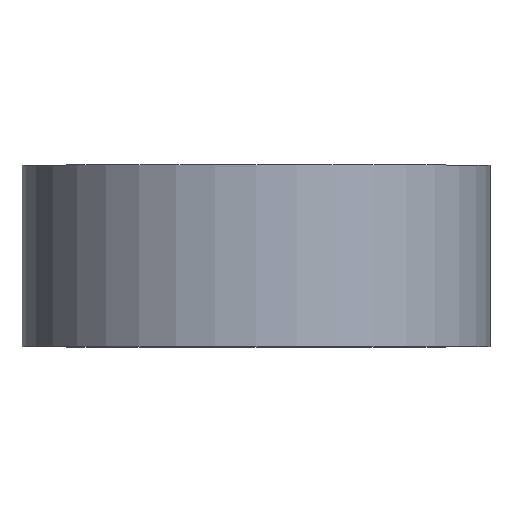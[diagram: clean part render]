
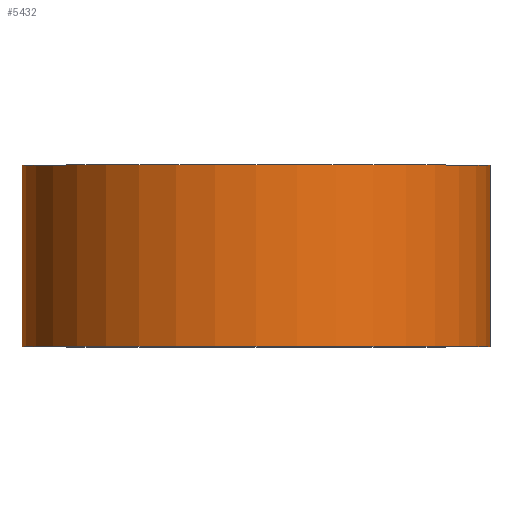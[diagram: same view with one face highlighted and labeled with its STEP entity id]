
A CAD part, top view. The second image highlights one B-rep face of the part: STEP entity #5432.
In plain terms, the highlighted cylindrical face has radius 82.5 mm (diameter 165 mm), a full revolution.
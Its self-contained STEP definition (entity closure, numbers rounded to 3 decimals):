
#615=FACE_OUTER_BOUND('',#957,.T.);
#957=EDGE_LOOP('',(#4364,#4365,#4366,#4367));
#1340=LINE('',#15311,#1719);
#1719=VECTOR('',#7200,82.5);
#2002=CIRCLE('',#5946,82.5);
#2013=CIRCLE('',#5967,82.5);
#2421=VERTEX_POINT('',#15273);
#2430=VERTEX_POINT('',#15310);
#3079=EDGE_CURVE('',#2421,#2421,#2002,.T.);
#3097=EDGE_CURVE('',#2421,#2430,#1340,.T.);
#3098=EDGE_CURVE('',#2430,#2430,#2013,.T.);
#4364=ORIENTED_EDGE('',*,*,#3079,.F.);
#4365=ORIENTED_EDGE('',*,*,#3097,.T.);
#4366=ORIENTED_EDGE('',*,*,#3098,.T.);
#4367=ORIENTED_EDGE('',*,*,#3097,.F.);
#4895=CYLINDRICAL_SURFACE('',#5966,82.5);
#5432=ADVANCED_FACE('',(#615),#4895,.T.);
#5946=AXIS2_PLACEMENT_3D('',#15274,#7151,#7152);
#5966=AXIS2_PLACEMENT_3D('',#15309,#7198,#7199);
#5967=AXIS2_PLACEMENT_3D('',#15312,#7201,#7202);
#7151=DIRECTION('center_axis',(0.,1.,0.));
#7152=DIRECTION('ref_axis',(-1.,0.,0.));
#7198=DIRECTION('center_axis',(0.,1.,0.));
#7199=DIRECTION('ref_axis',(-1.,0.,0.));
#7200=DIRECTION('',(0.,-1.,0.));
#7201=DIRECTION('center_axis',(0.,1.,0.));
#7202=DIRECTION('ref_axis',(-1.,0.,0.));
#15273=CARTESIAN_POINT('',(82.5,69.,0.));
#15274=CARTESIAN_POINT('Origin',(0.,69.,0.));
#15309=CARTESIAN_POINT('Origin',(0.,37.,0.));
#15310=CARTESIAN_POINT('',(82.5,5.,0.));
#15311=CARTESIAN_POINT('',(82.5,37.,0.));
#15312=CARTESIAN_POINT('Origin',(0.,5.,0.));
